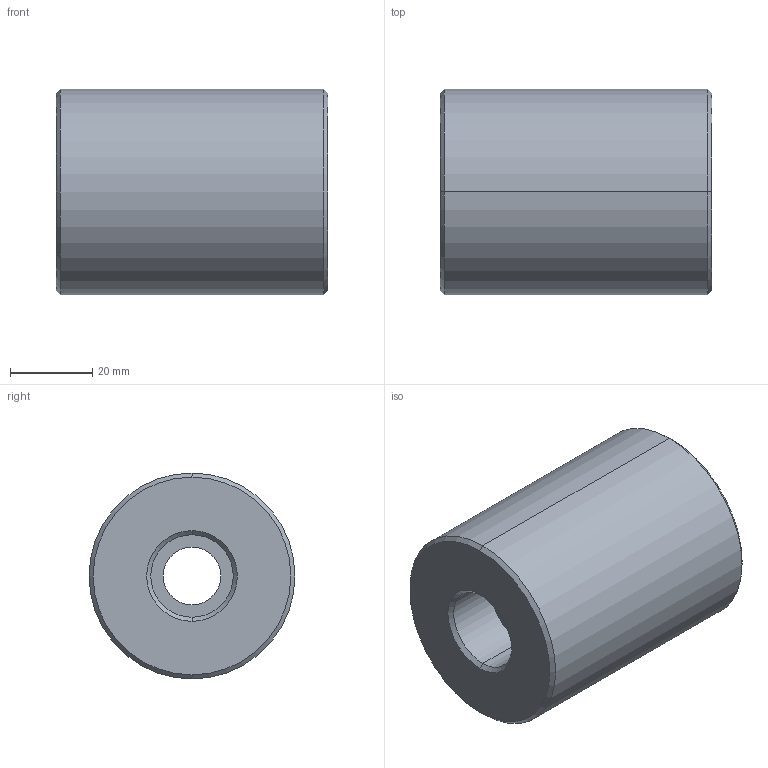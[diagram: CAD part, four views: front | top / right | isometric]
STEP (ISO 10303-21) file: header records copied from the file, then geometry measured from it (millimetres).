
FILE_DESCRIPTION (( 'STEP AP214' ), '1' );
FILE_NAME ('BR571-50x66.STEP', '2020-05-04T17:06:30', ( 'August' ), ( '' ), 'SwSTEP 2.0', 'SolidWorks 2018', '' );
FILE_SCHEMA (( 'AUTOMOTIVE_DESIGN' ));
Length unit declared in the file: millimetre
Products named in the file (1): BR571-50x66
Bounding box: 66 x 50 x 50 mm (x, y, z)
Volume: 116977.2 mm3; surface area: 16906.5 mm2
Topology: 1 solids, 1 shells, 17 faces, 34 edges, 20 vertices
Faces by surface type: cone 8, cylinder 6, plane 3
Entity records: 482 total; most frequent: DIRECTION 90, CARTESIAN_POINT 72, ORIENTED_EDGE 68, AXIS2_PLACEMENT_3D 38, EDGE_CURVE 34, EDGE_LOOP 20, VERTEX_POINT 20, CIRCLE 20
